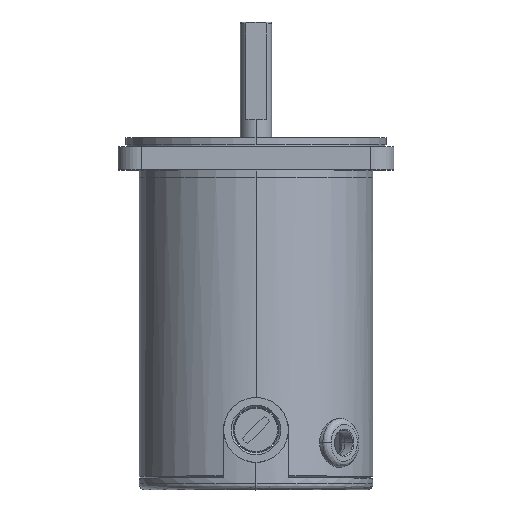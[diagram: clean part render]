
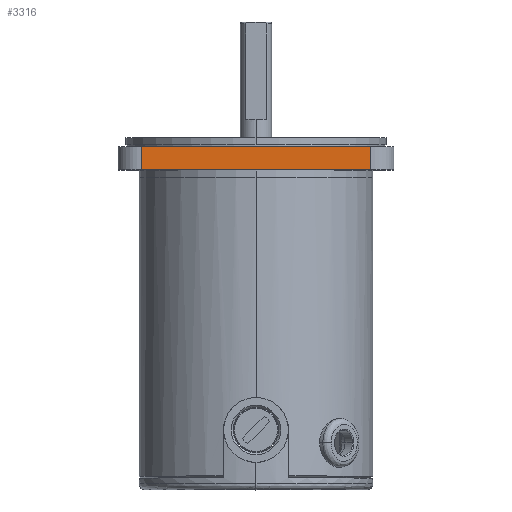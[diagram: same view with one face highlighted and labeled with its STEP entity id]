
A CAD part, top view. The second image highlights one B-rep face of the part: STEP entity #3316.
In plain terms, the highlighted planar face has unit normal (0, 0, 1).
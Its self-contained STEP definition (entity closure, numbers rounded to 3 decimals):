
#50 = ORIENTED_EDGE ( 'NONE', *, *, #3481, .F. ) ;
#179 = ORIENTED_EDGE ( 'NONE', *, *, #2923, .T. ) ;
#506 = AXIS2_PLACEMENT_3D ( 'NONE', #2574, #1456, #6346 ) ;
#569 = DIRECTION ( 'NONE',  ( 0., -1., 0. ) ) ;
#820 = CARTESIAN_POINT ( 'NONE',  ( -29.4, 5.5, 35.4 ) ) ;
#832 = DIRECTION ( 'NONE',  ( 0., 1., 0. ) ) ;
#1424 = FACE_OUTER_BOUND ( 'NONE', #4230, .T. ) ;
#1456 = DIRECTION ( 'NONE',  ( 0., 0., -1. ) ) ;
#1937 = VECTOR ( 'NONE', #569, 1000. ) ;
#2376 = LINE ( 'NONE', #4068, #3943 ) ;
#2467 = PLANE ( 'NONE',  #506 ) ;
#2574 = CARTESIAN_POINT ( 'NONE',  ( 35.4, 13.8, 35.4 ) ) ;
#2923 = EDGE_CURVE ( 'NONE', #4305, #6611, #2376, .T. ) ;
#3004 = DIRECTION ( 'NONE',  ( -1., 0., 0. ) ) ;
#3187 = DIRECTION ( 'NONE',  ( 1., 0., 0. ) ) ;
#3240 = VERTEX_POINT ( 'NONE', #4559 ) ;
#3293 = LINE ( 'NONE', #5473, #1937 ) ;
#3316 = ADVANCED_FACE ( 'NONE', ( #1424 ), #2467, .F. ) ;
#3481 = EDGE_CURVE ( 'NONE', #3240, #6611, #3866, .T. ) ;
#3866 = LINE ( 'NONE', #6525, #6975 ) ;
#3943 = VECTOR ( 'NONE', #832, 1000. ) ;
#4068 = CARTESIAN_POINT ( 'NONE',  ( 29.4, 13.8, 35.4 ) ) ;
#4161 = EDGE_CURVE ( 'NONE', #3240, #5288, #3293, .T. ) ;
#4230 = EDGE_LOOP ( 'NONE', ( #5532, #179, #50, #5004 ) ) ;
#4305 = VERTEX_POINT ( 'NONE', #6379 ) ;
#4559 = CARTESIAN_POINT ( 'NONE',  ( -29.4, 11.5, 35.4 ) ) ;
#5004 = ORIENTED_EDGE ( 'NONE', *, *, #4161, .T. ) ;
#5288 = VERTEX_POINT ( 'NONE', #820 ) ;
#5473 = CARTESIAN_POINT ( 'NONE',  ( -29.4, 13.8, 35.4 ) ) ;
#5532 = ORIENTED_EDGE ( 'NONE', *, *, #5685, .F. ) ;
#5685 = EDGE_CURVE ( 'NONE', #4305, #5288, #6958, .T. ) ;
#5725 = CARTESIAN_POINT ( 'NONE',  ( 35.4, 5.5, 35.4 ) ) ;
#6331 = VECTOR ( 'NONE', #3004, 1000. ) ;
#6346 = DIRECTION ( 'NONE',  ( -1., 0., 0. ) ) ;
#6379 = CARTESIAN_POINT ( 'NONE',  ( 29.4, 5.5, 35.4 ) ) ;
#6525 = CARTESIAN_POINT ( 'NONE',  ( 35.4, 11.5, 35.4 ) ) ;
#6611 = VERTEX_POINT ( 'NONE', #6647 ) ;
#6647 = CARTESIAN_POINT ( 'NONE',  ( 29.4, 11.5, 35.4 ) ) ;
#6958 = LINE ( 'NONE', #5725, #6331 ) ;
#6975 = VECTOR ( 'NONE', #3187, 1000. ) ;
